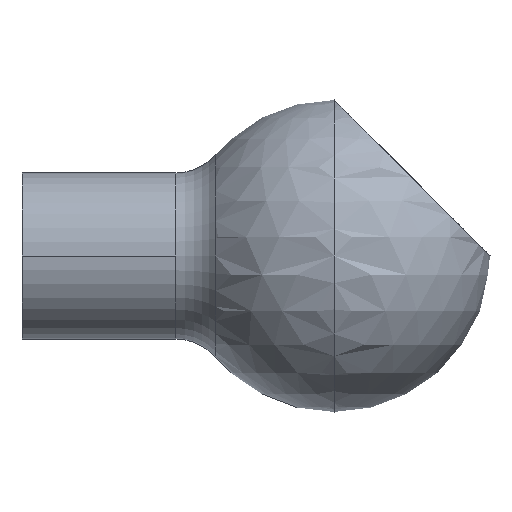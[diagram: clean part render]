
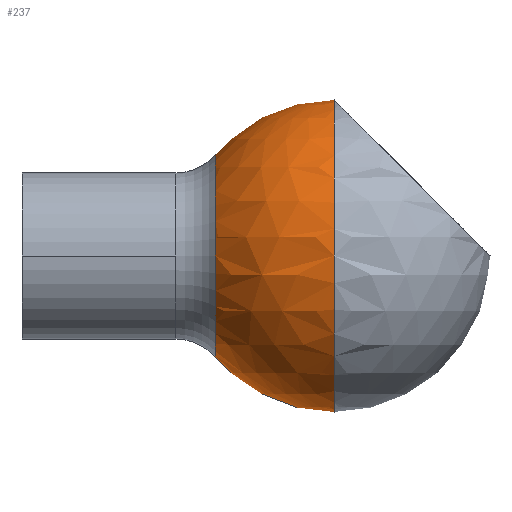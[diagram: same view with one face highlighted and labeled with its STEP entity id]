
A CAD part, left-side view. The second image highlights one B-rep face of the part: STEP entity #237.
In plain terms, the highlighted spherical face has radius 15 mm.
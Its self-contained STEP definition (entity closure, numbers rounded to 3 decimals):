
#161 = EDGE_CURVE( '', #211, #407, #437, .T. );
#179 = EDGE_CURVE( '', #331, #367, #457, .T. );
#211 = VERTEX_POINT( '', #492 );
#213 = VERTEX_POINT( '', #494 );
#219 = EDGE_CURVE( '', #367, #211, #500, .T. );
#237 = ADVANCED_FACE( '', ( #523 ), #524, .T. );
#249 = VERTEX_POINT( '', #536 );
#259 = EDGE_CURVE( '', #337, #249, #546, .T. );
#303 = EDGE_CURVE( '', #407, #377, #598, .T. );
#331 = VERTEX_POINT( '', #630 );
#337 = VERTEX_POINT( '', #636 );
#347 = EDGE_CURVE( '', #377, #213, #646, .T. );
#367 = VERTEX_POINT( '', #666 );
#375 = EDGE_CURVE( '', #249, #331, #674, .T. );
#377 = VERTEX_POINT( '', #676 );
#397 = EDGE_CURVE( '', #213, #337, #698, .T. );
#407 = VERTEX_POINT( '', #709 );
#437 = CIRCLE( '', #731, 15. );
#457 = CIRCLE( '', #757, 15. );
#492 = CARTESIAN_POINT( '', ( 0., -30., -15. ) );
#494 = CARTESIAN_POINT( '', ( 0., -18.601, -9.75 ) );
#500 = CIRCLE( '', #809, 15. );
#523 = FACE_OUTER_BOUND( '', #833, .T. );
#524 = SPHERICAL_SURFACE( '', #834, 15. );
#536 = CARTESIAN_POINT( '', ( 9., -18.601, 3.75 ) );
#546 = CIRCLE( '', #872, 9.75 );
#598 = CIRCLE( '', #955, 12. );
#630 = CARTESIAN_POINT( '', ( 9., -30., 12. ) );
#636 = CARTESIAN_POINT( '', ( 0., -18.601, 9.75 ) );
#646 = CIRCLE( '', #1019, 9.75 );
#666 = CARTESIAN_POINT( '', ( 0., -30., 15. ) );
#674 = CIRCLE( '', #1056, 12. );
#676 = CARTESIAN_POINT( '', ( 9., -18.601, -3.75 ) );
#698 = CIRCLE( '', #1087, 9.75 );
#709 = CARTESIAN_POINT( '', ( 9., -30., -12. ) );
#731 = AXIS2_PLACEMENT_3D( '', #1126, #1127, #1128 );
#757 = AXIS2_PLACEMENT_3D( '', #1154, #1155, #1156 );
#809 = AXIS2_PLACEMENT_3D( '', #1203, #1204, #1205 );
#833 = EDGE_LOOP( '', ( #1243, #1244, #1245, #1246, #1247, #1248, #1249, #1250 ) );
#834 = AXIS2_PLACEMENT_3D( '', #1251, #1252, #1253 );
#872 = AXIS2_PLACEMENT_3D( '', #1263, #1264, #1265 );
#955 = AXIS2_PLACEMENT_3D( '', #1346, #1347, #1348 );
#1019 = AXIS2_PLACEMENT_3D( '', #1412, #1413, #1414 );
#1056 = AXIS2_PLACEMENT_3D( '', #1439, #1440, #1441 );
#1087 = AXIS2_PLACEMENT_3D( '', #1470, #1471, #1472 );
#1126 = CARTESIAN_POINT( '', ( 0., -30., 0. ) );
#1127 = DIRECTION( '', ( 0., -1., 0. ) );
#1128 = DIRECTION( '', ( 0., 0., 1. ) );
#1154 = CARTESIAN_POINT( '', ( 0., -30., 0. ) );
#1155 = DIRECTION( '', ( 0., -1., 0. ) );
#1156 = DIRECTION( '', ( 0., 0., 1. ) );
#1203 = CARTESIAN_POINT( '', ( 0., -30., 0. ) );
#1204 = DIRECTION( '', ( 0., -1., 0. ) );
#1205 = DIRECTION( '', ( 0., 0., 1. ) );
#1243 = ORIENTED_EDGE( '', *, *, #219, .F. );
#1244 = ORIENTED_EDGE( '', *, *, #179, .F. );
#1245 = ORIENTED_EDGE( '', *, *, #375, .F. );
#1246 = ORIENTED_EDGE( '', *, *, #259, .F. );
#1247 = ORIENTED_EDGE( '', *, *, #397, .F. );
#1248 = ORIENTED_EDGE( '', *, *, #347, .F. );
#1249 = ORIENTED_EDGE( '', *, *, #303, .F. );
#1250 = ORIENTED_EDGE( '', *, *, #161, .F. );
#1251 = CARTESIAN_POINT( '', ( 0., -30., 0. ) );
#1252 = DIRECTION( '', ( 0., 0., 1. ) );
#1253 = DIRECTION( '', ( 1., 0., 0. ) );
#1263 = CARTESIAN_POINT( '', ( 0., -18.601, 0. ) );
#1264 = DIRECTION( '', ( 0., 1., 0. ) );
#1265 = DIRECTION( '', ( 0., 0., 1. ) );
#1346 = CARTESIAN_POINT( '', ( 9., -30., 0. ) );
#1347 = DIRECTION( '', ( 1., 0., 0. ) );
#1348 = DIRECTION( '', ( 0., 0., -1. ) );
#1412 = CARTESIAN_POINT( '', ( 0., -18.601, 0. ) );
#1413 = DIRECTION( '', ( 0., 1., 0. ) );
#1414 = DIRECTION( '', ( 0., 0., 1. ) );
#1439 = CARTESIAN_POINT( '', ( 9., -30., 0. ) );
#1440 = DIRECTION( '', ( 1., 0., 0. ) );
#1441 = DIRECTION( '', ( 0., 0., -1. ) );
#1470 = CARTESIAN_POINT( '', ( 0., -18.601, 0. ) );
#1471 = DIRECTION( '', ( 0., 1., 0. ) );
#1472 = DIRECTION( '', ( 0., 0., 1. ) );
